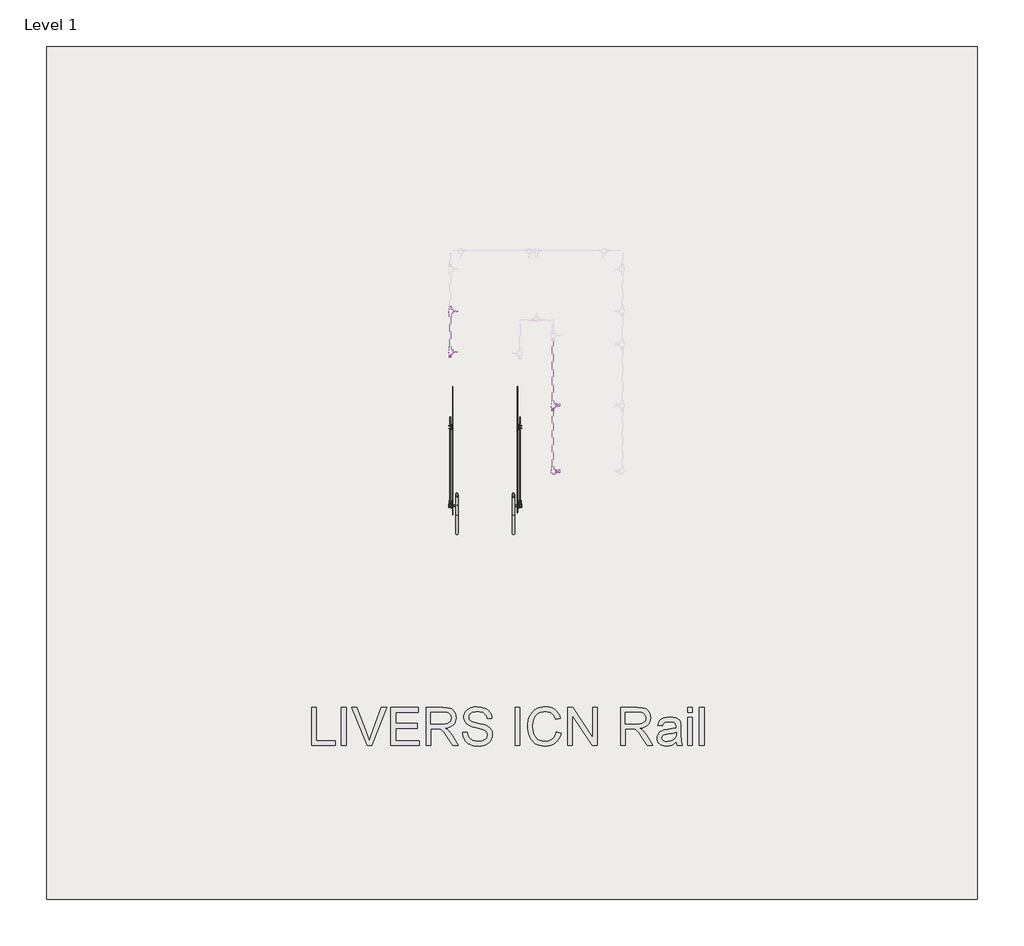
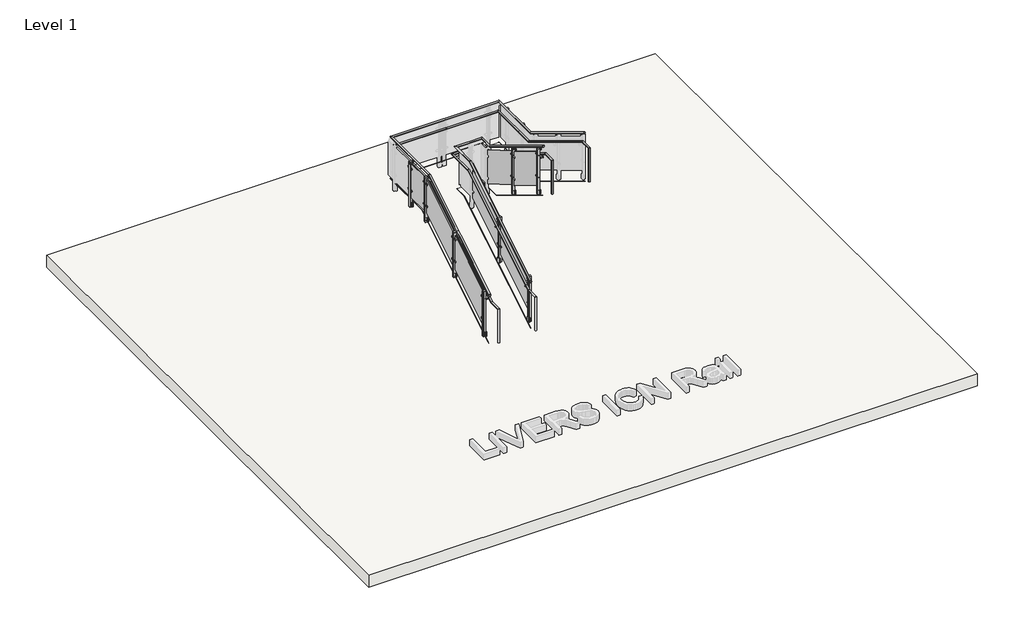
# One storey, part 1 of 2: 7 proxies, 2 railings, 1 slab.
"""IFC4 building model written with IfcOpenShell, lengths in millimetres."""

from ifc_helpers import new_model, si_unit, frame, origin, place, context, project, spatial, polyline, circle_curve, ellipse_curve, outline, extrude, transform, mapped, element, save
from ifc_brep_helpers import plane_surface, cylinder_surface, advanced_brep
from components import building_element_proxy_f8103633, building_element_proxy_05a415d2, building_element_proxy_c05a2053, building_element_proxy_67c162b6, building_element_proxy_19aa9ecd, building_element_proxy_eeb6ef50, building_element_proxy_6e90fe54, building_element_proxy_b375c711

model = new_model("IFC4")

# Units and contexts
model_context = context("Model", 3, world=origin())
ifc_project = project(units=[si_unit("LENGTHUNIT", "METRE", prefix="MILLI")], contexts=[model_context])

# Site, building, storey
site = spatial("IfcSite", under=ifc_project)
building = spatial("IfcBuilding", under=site)
storey = spatial("IfcBuildingStorey", under=building, Name="Level 1", Elevation=0.0)

# Proxies
placement = place(None, origin())
building_element_proxy_shape = building_element_proxy_f8103633(model_context)
element("IfcBuildingElementProxy", 1, Name="LIVERS_ICN - Glass Panel : LIVERS_ICN - Glass Panel", ObjectType="LIVERS_ICN - Glass Panel : LIVERS_ICN - Glass Panel", at=placement, inside=storey, context=model_context, shape_type="MappedRepresentation", body=[
    mapped(building_element_proxy_shape, transform((29702.5380155, -12722.7575069, 608.1073718), x_axis=(0.0, 1.0, 0.0), y_axis=(-1.0, 0.0, 0.0), z_axis=(0.0, 0.0, 1.0))),
])
building_element_proxy_2_shape = building_element_proxy_05a415d2(model_context)
element("IfcBuildingElementProxy", 2, Name="LIVERS_ICN - Glass Panel : LIVERS_ICN - Glass Panel", ObjectType="LIVERS_ICN - Glass Panel : LIVERS_ICN - Glass Panel", at=placement, inside=storey, context=model_context, shape_type="MappedRepresentation", body=[
    mapped(building_element_proxy_2_shape, transform((30718.5380155, -11490.9012132, 615.7778528), x_axis=(0.0, -1.0, 0.0), y_axis=(1.0, 0.0, 0.0), z_axis=(0.0, 0.0, 1.0))),
])
building_element_proxy_3_shape = building_element_proxy_c05a2053(model_context)
element("IfcBuildingElementProxy", 3, Name="LIVERS_ICN - Glass Panel : LIVERS_ICN - Glass Panel", ObjectType="LIVERS_ICN - Glass Panel : LIVERS_ICN - Glass Panel", at=placement, inside=storey, context=model_context, shape_type="MappedRepresentation", body=[
    mapped(building_element_proxy_3_shape, transform((30718.5380155, -10255.1105297, 1364.7419034), x_axis=(0.0, -1.0, 0.0), y_axis=(1.0, 0.0, 0.0), z_axis=(0.0, 0.0, 1.0))),
])
building_element_proxy_4_shape = building_element_proxy_67c162b6(model_context)
element("IfcBuildingElementProxy", 4, Name="LIVERS_ICN - Glass Panel : LIVERS_ICN - Glass Panel", ObjectType="LIVERS_ICN - Glass Panel : LIVERS_ICN - Glass Panel", at=placement, inside=storey, context=model_context, shape_type="MappedRepresentation", body=[
    mapped(building_element_proxy_4_shape, transform((31312.1560196, -11253.3633384, 2031.9094722), x_axis=(0.0, 1.0, 0.0), y_axis=(-1.0, 0.0, 0.0), z_axis=(0.0, 0.0, 1.0))),
])
building_element_proxy_5_shape = building_element_proxy_19aa9ecd(model_context)
element("IfcBuildingElementProxy", 5, Name="LIVERS_ICN - Glass Panel : LIVERS_ICN - Glass Panel", ObjectType="LIVERS_ICN - Glass Panel : LIVERS_ICN - Glass Panel", at=placement, inside=storey, context=model_context, shape_type="MappedRepresentation", body=[
    mapped(building_element_proxy_5_shape, transform((29702.5380155, -11517.0898548, 1338.8150397), x_axis=(0.0, 1.0, 0.0), y_axis=(-1.0, 0.0, 0.0), z_axis=(0.0, 0.0, 1.0))),
])
building_element_proxy_6_shape = building_element_proxy_eeb6ef50(model_context)
building_element_proxy_7_shape = building_element_proxy_6e90fe54(model_context)
element("IfcBuildingElementProxy", 6, Name="LIVERS_ICN - Glass Panel : LIVERS_ICN - Glass Panel", ObjectType="LIVERS_ICN - Glass Panel : LIVERS_ICN - Glass Panel", at=placement, inside=storey, context=model_context, shape_type="MappedRepresentation", body=[
    mapped(building_element_proxy_6_shape, transform((29702.5380155, -10439.0959724, 1680.6127155), x_axis=(0.0, 1.0, 0.0), y_axis=(-1.0, 0.0, 0.0), z_axis=(0.0, 0.0, 1.0))),
    mapped(building_element_proxy_7_shape, transform((29702.5380155, -10439.0959724, 1680.6127155), x_axis=(0.0, 1.0, 0.0), y_axis=(-1.0, 0.0, 0.0), z_axis=(0.0, 0.0, 1.0))),
])
building_element_proxy_8_shape = building_element_proxy_b375c711(model_context)
element("IfcBuildingElementProxy", 7, Name="LIVERS_ICN - Glass Panel : LIVERS_ICN - Glass Panel", ObjectType="LIVERS_ICN - Glass Panel : LIVERS_ICN - Glass Panel", at=placement, inside=storey, context=model_context, shape_type="MappedRepresentation", body=[
    mapped(building_element_proxy_8_shape, transform((31312.1560196, -12179.5288073, 2593.2218776), x_axis=(0.0, 1.0, 0.0), y_axis=(-1.0, 0.0, 0.0), z_axis=(0.0, 0.0, 1.0))),
])

# Railings
element("IfcRailing", 8, ObjectType="LIVERS_ICN", at=placement, inside=storey, context=model_context, shape_type="AdvancedBrep", body=[
    advanced_brep(
    [(29785.0880155, -13143.8736898, 169.3333333), (29746.9880155, -13143.8736898, 169.3333333), (29785.0880155, -13143.8736898, 1013.8833333), (29746.9880155, -13143.8736898, 1013.8833333), (29785.0880155, -12852.8015363, 1013.8833333), (29746.9880155, -12852.8015363, 1013.8833333), (29785.0880155, -10338.2015363, 2537.8833333), (29746.9880155, -10338.2015363, 2537.8833333), (29785.0880155, -8817.0950361, 2537.8833333), (29746.9880155, -8778.9950361, 2537.8833333), (32245.6060196, -8817.0950361, 2537.8833333), (32283.7060196, -8778.9950361, 2537.8833333), (32245.6060196, -10069.4458434, 2537.8833333), (32283.7060196, -10069.4458434, 2537.8833333), (32245.6060196, -12304.6458434, 3892.55), (32283.7060196, -12304.6458434, 3892.55), (32245.6060196, -12585.0736898, 3892.55), (32283.7060196, -12585.0736898, 3892.55), (32245.6060196, -12585.0736898, 3048.0), (32283.7060196, -12585.0736898, 3048.0)],
    [
        (0, 1, circle_curve(frame((29766.0380155, -13143.8736898, 169.3333333), z_axis=(0.0, 0.0, -1.0), x_axis=(-1.0, 0.0, 0.0)), 19.05)),
        (1, 0, circle_curve(frame((29766.0380155, -13143.8736898, 169.3333333), z_axis=(0.0, 0.0, -1.0), x_axis=(-1.0, 0.0, 0.0)), 19.05)),
        (0, 2),
        (2, 3, ellipse_curve(frame((29766.0380155, -13143.8736898, 1013.8833333), z_axis=(0.0, -0.7071067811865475, -0.7071067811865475), x_axis=(0.0, 0.7071067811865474, -0.7071067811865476)), 26.9407684, 19.05)),
        (3, 1),
        (3, 2, ellipse_curve(frame((29766.0380155, -13143.8736898, 1013.8833333), z_axis=(0.0, -0.7071067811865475, -0.7071067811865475), x_axis=(0.0, 0.7071067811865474, -0.7071067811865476)), 26.9407684, 19.05)),
        (2, 4),
        (4, 5, ellipse_curve(frame((29766.0380155, -12852.8015363, 1013.8833333), z_axis=(0.0, -0.9631193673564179, -0.26907449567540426), x_axis=(0.0, -0.26907449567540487, 0.9631193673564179)), 19.7794797, 19.05)),
        (5, 3),
        (5, 4, ellipse_curve(frame((29766.0380155, -12852.8015363, 1013.8833333), z_axis=(0.0, -0.9631193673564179, -0.26907449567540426), x_axis=(0.0, -0.26907449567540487, 0.9631193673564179)), 19.7794797, 19.05)),
        (4, 6),
        (6, 7, ellipse_curve(frame((29766.0380155, -10338.2015363, 2537.8833333), z_axis=(0.0, -0.9631193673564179, -0.2690744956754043), x_axis=(0.0, 0.26907449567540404, -0.9631193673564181)), 19.7794797, 19.05)),
        (7, 5),
        (7, 6, ellipse_curve(frame((29766.0380155, -10338.2015363, 2537.8833333), z_axis=(0.0, -0.9631193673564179, -0.2690744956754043), x_axis=(0.0, 0.26907449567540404, -0.9631193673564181)), 19.7794797, 19.05)),
        (6, 8),
        (8, 9, ellipse_curve(frame((29766.0380155, -8798.0450361, 2537.8833333), z_axis=(-0.7071067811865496, -0.7071067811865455, 0.0), x_axis=(0.7071067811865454, -0.7071067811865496, 0.0)), 26.9407684, 19.05)),
        (9, 7),
        (9, 8, ellipse_curve(frame((29766.0380155, -8798.0450361, 2537.8833333), z_axis=(-0.7071067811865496, -0.7071067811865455, 0.0), x_axis=(0.7071067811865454, -0.7071067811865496, 0.0)), 26.9407684, 19.05)),
        (8, 10),
        (10, 11, ellipse_curve(frame((32264.6560196, -8798.0450361, 2537.8833333), z_axis=(-0.7071067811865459, 0.7071067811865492, 0.0), x_axis=(-0.707106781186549, -0.7071067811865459, 0.0)), 26.9407684, 19.05)),
        (11, 9),
        (11, 10, ellipse_curve(frame((32264.6560196, -8798.0450361, 2537.8833333), z_axis=(-0.7071067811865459, 0.7071067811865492, 0.0), x_axis=(-0.707106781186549, -0.7071067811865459, 0.0)), 26.9407684, 19.05)),
        (10, 12),
        (12, 13, ellipse_curve(frame((32264.6560196, -10069.4458434, 2537.8833333), z_axis=(0.0, 0.963119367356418, -0.26907449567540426), x_axis=(0.0, 0.2690744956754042, 0.9631193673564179)), 19.7794797, 19.05)),
        (13, 11),
        (13, 12, ellipse_curve(frame((32264.6560196, -10069.4458434, 2537.8833333), z_axis=(0.0, 0.963119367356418, -0.26907449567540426), x_axis=(0.0, 0.2690744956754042, 0.9631193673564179)), 19.7794797, 19.05)),
        (12, 14),
        (14, 15, ellipse_curve(frame((32264.6560196, -12304.6458434, 3892.55), z_axis=(0.0, 0.963119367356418, -0.26907449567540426), x_axis=(0.0, -0.26907449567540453, -0.9631193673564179)), 19.7794797, 19.05)),
        (15, 13),
        (15, 14, ellipse_curve(frame((32264.6560196, -12304.6458434, 3892.55), z_axis=(0.0, 0.963119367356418, -0.26907449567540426), x_axis=(0.0, -0.26907449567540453, -0.9631193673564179)), 19.7794797, 19.05)),
        (14, 16),
        (16, 17, ellipse_curve(frame((32264.6560196, -12585.0736898, 3892.55), z_axis=(0.0, 0.7071067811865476, 0.7071067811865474), x_axis=(0.0, 0.7071067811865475, -0.7071067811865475)), 26.9407684, 19.05)),
        (17, 15),
        (17, 16, ellipse_curve(frame((32264.6560196, -12585.0736898, 3892.55), z_axis=(0.0, 0.7071067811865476, 0.7071067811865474), x_axis=(0.0, 0.7071067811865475, -0.7071067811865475)), 26.9407684, 19.05)),
        (18, 19, circle_curve(frame((32264.6560196, -12585.0736898, 3048.0), z_axis=(0.0, 0.0, -1.0), x_axis=(1.0, 0.0, 0.0)), 19.05)),
        (19, 18, circle_curve(frame((32264.6560196, -12585.0736898, 3048.0), z_axis=(0.0, 0.0, -1.0), x_axis=(1.0, 0.0, 0.0)), 19.05)),
        (16, 18),
        (19, 17),
    ],
    [
        plane_surface(frame((29766.0380155, -13201.0236898, 169.3333333), z_axis=(0.0, 0.0, -1.0), x_axis=(1.0, 0.0, 0.0))),
        cylinder_surface(frame((29766.0380155, -13143.8736898, 169.3333333), z_axis=(0.0, 0.0, -1.0), x_axis=(-1.0, 0.0, 0.0)), 19.05),
        cylinder_surface(frame((29766.0380155, -13162.9236898, 1013.8833333), z_axis=(0.0, -1.0, 0.0), x_axis=(-1.0, 0.0, 0.0)), 19.05),
        cylinder_surface(frame((29766.0380155, -12848.2500421, 1016.6418146), z_axis=(0.0, -0.8551978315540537, -0.5183017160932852), x_axis=(-1.0, 0.0, 0.0)), 19.05),
        cylinder_surface(frame((29766.0380155, -10343.5236898, 2537.8833333), z_axis=(0.0, -1.0, 0.0), x_axis=(-1.0, 0.0, 0.0)), 19.05),
        cylinder_surface(frame((29766.0380155, -8798.0450361, 2537.8833333), z_axis=(-1.0, 0.0, 0.0), x_axis=(0.0, 1.0, 0.0)), 19.05),
        cylinder_surface(frame((32264.6560196, -8798.0450361, 2537.8833333), z_axis=(0.0, 1.0, 0.0), x_axis=(1.0, 0.0, 0.0)), 19.05),
        cylinder_surface(frame((32264.6560196, -10073.9973375, 2540.6418146), z_axis=(0.0, 0.8551978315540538, -0.5183017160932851), x_axis=(1.0, 0.0, 0.0)), 19.05),
        cylinder_surface(frame((32264.6560196, -12299.3236898, 3892.55), z_axis=(0.0, 1.0, 0.0), x_axis=(1.0, 0.0, 0.0)), 19.05),
        plane_surface(frame((32264.6560196, -12642.2236898, 3048.0), z_axis=(0.0, 0.0, -1.0), x_axis=(-1.0, 0.0, 0.0))),
        cylinder_surface(frame((32264.6560196, -12585.0736898, 3911.6), z_axis=(0.0, 0.0, 1.0), x_axis=(1.0, 0.0, 0.0)), 19.05),
    ],
    [
        (0, [[1, 2]]),
        (1, [[-1, 3, 4, 5]]),
        (1, [[-2, -5, 6, -3]]),
        (2, [[-4, 7, 8, 9]]),
        (2, [[-6, -9, 10, -7]]),
        (3, [[-8, 11, 12, 13]]),
        (3, [[-10, -13, 14, -11]]),
        (4, [[-12, 15, 16, 17]]),
        (4, [[-14, -17, 18, -15]]),
        (5, [[-16, 19, 20, 21]]),
        (5, [[-18, -21, 22, -19]]),
        (6, [[-20, 23, 24, 25]]),
        (6, [[-22, -25, 26, -23]]),
        (7, [[-24, 27, 28, 29]]),
        (7, [[-26, -29, 30, -27]]),
        (8, [[-28, 31, 32, 33]]),
        (8, [[-30, -33, 34, -31]]),
        (9, [[35, 36]]),
        (10, [[-32, 37, -36, 38]]),
        (10, [[-34, -38, -35, -37]]),
    ],
),
    advanced_brep(
    [(29703.7663605, -12858.1236898, -22.5851124), (29701.3096705, -12858.1236898, -22.5851124), (29703.7663605, -10045.8205046, 1681.8410605), (29701.3096705, -10045.8205046, 1681.8410605), (29703.7663605, -8735.773381, 1681.8410605), (29701.3096705, -8733.3166911, 1681.8410605), (32326.9276746, -8735.773381, 1681.8410605), (32329.3843646, -8733.3166911, 1681.8410605), (32326.9276746, -10361.8268751, 1681.8410605), (32329.3843646, -10361.8268751, 1681.8410605), (32326.9276746, -12299.3236898, 2856.0815543), (32329.3843646, -12299.3236898, 2856.0815543)],
    [
        (0, 1, ellipse_curve(frame((29702.5380155, -12858.1236898, -22.5851124), z_axis=(0.0, -1.0, 0.0), x_axis=(0.0, 0.0, -1.0)), 1.4363285, 1.228345)),
        (1, 0, ellipse_curve(frame((29702.5380155, -12858.1236898, -22.5851124), z_axis=(0.0, -1.0, 0.0), x_axis=(0.0, 0.0, -1.0)), 1.4363285, 1.228345)),
        (0, 2),
        (2, 3, ellipse_curve(frame((29702.5380155, -10045.8205046, 1681.8410605), z_axis=(0.0, -0.963119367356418, -0.2690744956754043), x_axis=(0.0, 0.26907449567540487, -0.9631193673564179)), 1.2753819, 1.228345)),
        (3, 1),
        (3, 2, ellipse_curve(frame((29702.5380155, -10045.8205046, 1681.8410605), z_axis=(0.0, -0.963119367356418, -0.2690744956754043), x_axis=(0.0, 0.26907449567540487, -0.9631193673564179)), 1.2753819, 1.228345)),
        (2, 4),
        (4, 5, ellipse_curve(frame((29702.5380155, -8734.5450361, 1681.8410605), z_axis=(-0.7071067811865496, -0.7071067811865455, 0.0), x_axis=(0.7071067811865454, -0.7071067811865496, 0.0)), 1.7371421, 1.228345)),
        (5, 3),
        (5, 4, ellipse_curve(frame((29702.5380155, -8734.5450361, 1681.8410605), z_axis=(-0.7071067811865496, -0.7071067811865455, 0.0), x_axis=(0.7071067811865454, -0.7071067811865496, 0.0)), 1.7371421, 1.228345)),
        (4, 6),
        (6, 7, ellipse_curve(frame((32328.1560196, -8734.5450361, 1681.8410605), z_axis=(-0.7071067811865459, 0.7071067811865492, 0.0), x_axis=(-0.707106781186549, -0.7071067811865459, 0.0)), 1.7371421, 1.228345)),
        (7, 5),
        (7, 6, ellipse_curve(frame((32328.1560196, -8734.5450361, 1681.8410605), z_axis=(-0.7071067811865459, 0.7071067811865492, 0.0), x_axis=(-0.707106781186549, -0.7071067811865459, 0.0)), 1.7371421, 1.228345)),
        (6, 8),
        (8, 9, ellipse_curve(frame((32328.1560196, -10361.8268751, 1681.8410605), z_axis=(0.0, 0.963119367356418, -0.26907449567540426), x_axis=(0.0, 0.2690744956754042, 0.963119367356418)), 1.2753819, 1.228345)),
        (9, 7),
        (9, 8, ellipse_curve(frame((32328.1560196, -10361.8268751, 1681.8410605), z_axis=(0.0, 0.963119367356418, -0.26907449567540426), x_axis=(0.0, 0.2690744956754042, 0.963119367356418)), 1.2753819, 1.228345)),
        (10, 11, ellipse_curve(frame((32328.1560196, -12299.3236898, 2856.0815543), z_axis=(0.0, -1.0, 0.0), x_axis=(0.0, 0.0, -1.0)), 1.4363285, 1.228345)),
        (11, 10, ellipse_curve(frame((32328.1560196, -12299.3236898, 2856.0815543), z_axis=(0.0, -1.0, 0.0), x_axis=(0.0, 0.0, -1.0)), 1.4363285, 1.228345)),
        (8, 10),
        (11, 9),
    ],
    [
        plane_surface(frame((29702.5380155, -12858.1236898, 1223.4333333), z_axis=(0.0, -1.0, 0.0), x_axis=(0.0, 0.0, 1.0))),
        cylinder_surface(frame((29702.5380155, -12305.8253861, 312.1411323), z_axis=(0.0, -0.8551978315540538, -0.5183017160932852), x_axis=(-1.0, 0.0, 0.0)), 1.228345),
        cylinder_surface(frame((29702.5380155, -10343.5236898, 1681.8410605), z_axis=(0.0, -1.0, 0.0), x_axis=(-1.0, 0.0, 0.0)), 1.228345),
        cylinder_surface(frame((29702.5380155, -8734.5450361, 1681.8410605), z_axis=(-1.0, 0.0, 0.0), x_axis=(0.0, 1.0, 0.0)), 1.228345),
        cylinder_surface(frame((32328.1560196, -8734.5450361, 1681.8410605), z_axis=(0.0, 1.0, 0.0), x_axis=(1.0, 0.0, 0.0)), 1.228345),
        plane_surface(frame((32328.1560196, -12299.3236898, 4102.1), z_axis=(0.0, -1.0, 0.0), x_axis=(0.0, 0.0, -1.0))),
        cylinder_surface(frame((32328.1560196, -10616.4219935, 1836.1411323), z_axis=(0.0, 0.8551978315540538, -0.5183017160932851), x_axis=(1.0, 0.0, 0.0)), 1.228345),
    ],
    [
        (0, [[1, 2]]),
        (1, [[-1, 3, 4, 5]]),
        (1, [[-2, -5, 6, -3]]),
        (2, [[-4, 7, 8, 9]]),
        (2, [[-6, -9, 10, -7]]),
        (3, [[-8, 11, 12, 13]]),
        (3, [[-10, -13, 14, -11]]),
        (4, [[-12, 15, 16, 17]]),
        (4, [[-14, -17, 18, -15]]),
        (5, [[19, 20]]),
        (6, [[-16, 21, -20, 22]]),
        (6, [[-18, -22, -19, -21]]),
    ],
),
    advanced_brep(
    [(29740.6380155, -12858.1236898, 1213.8577857), (29702.5380155, -12858.1236898, 1213.8577857), (29740.6380155, -10338.2015363, 2741.0833333), (29702.5380155, -10338.2015363, 2741.0833333), (29740.6380155, -8772.6450361, 2741.0833333), (29702.5380155, -8734.5450361, 2741.0833333), (32290.0560196, -8772.6450361, 2741.0833333), (32328.1560196, -8734.5450361, 2741.0833333), (32290.0560196, -10069.4458434, 2741.0833333), (32328.1560196, -10069.4458434, 2741.0833333), (32290.0560196, -12299.3236898, 4092.5244524), (32328.1560196, -12299.3236898, 4092.5244524)],
    [
        (0, 1, ellipse_curve(frame((29721.5880155, -12858.1236898, 1213.8577857), z_axis=(0.0, -1.0, 0.0), x_axis=(0.0, 0.0, -1.0)), 22.2755476, 19.05)),
        (1, 0, ellipse_curve(frame((29721.5880155, -12858.1236898, 1213.8577857), z_axis=(0.0, -1.0, 0.0), x_axis=(0.0, 0.0, -1.0)), 22.2755476, 19.05)),
        (0, 2),
        (2, 3, ellipse_curve(frame((29721.5880155, -10338.2015363, 2741.0833333), z_axis=(0.0, -0.963119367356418, -0.2690744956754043), x_axis=(0.0, 0.26907449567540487, -0.9631193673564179)), 19.7794797, 19.05)),
        (3, 1),
        (3, 2, ellipse_curve(frame((29721.5880155, -10338.2015363, 2741.0833333), z_axis=(0.0, -0.963119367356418, -0.2690744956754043), x_axis=(0.0, 0.26907449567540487, -0.9631193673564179)), 19.7794797, 19.05)),
        (2, 4),
        (4, 5, ellipse_curve(frame((29721.5880155, -8753.5950361, 2741.0833333), z_axis=(-0.7071067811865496, -0.7071067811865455, 0.0), x_axis=(0.7071067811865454, -0.7071067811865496, 0.0)), 26.9407684, 19.05)),
        (5, 3),
        (5, 4, ellipse_curve(frame((29721.5880155, -8753.5950361, 2741.0833333), z_axis=(-0.7071067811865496, -0.7071067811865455, 0.0), x_axis=(0.7071067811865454, -0.7071067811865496, 0.0)), 26.9407684, 19.05)),
        (4, 6),
        (6, 7, ellipse_curve(frame((32309.1060196, -8753.5950361, 2741.0833333), z_axis=(-0.7071067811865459, 0.7071067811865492, 0.0), x_axis=(-0.707106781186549, -0.7071067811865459, 0.0)), 26.9407684, 19.05)),
        (7, 5),
        (7, 6, ellipse_curve(frame((32309.1060196, -8753.5950361, 2741.0833333), z_axis=(-0.7071067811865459, 0.7071067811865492, 0.0), x_axis=(-0.707106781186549, -0.7071067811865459, 0.0)), 26.9407684, 19.05)),
        (6, 8),
        (8, 9, ellipse_curve(frame((32309.1060196, -10069.4458434, 2741.0833333), z_axis=(0.0, 0.963119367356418, -0.26907449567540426), x_axis=(0.0, 0.2690744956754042, 0.963119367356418)), 19.7794797, 19.05)),
        (9, 7),
        (9, 8, ellipse_curve(frame((32309.1060196, -10069.4458434, 2741.0833333), z_axis=(0.0, 0.963119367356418, -0.26907449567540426), x_axis=(0.0, 0.2690744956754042, 0.963119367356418)), 19.7794797, 19.05)),
        (10, 11, ellipse_curve(frame((32309.1060196, -12299.3236898, 4092.5244524), z_axis=(0.0, -1.0, 0.0), x_axis=(0.0, 0.0, -1.0)), 22.2755476, 19.05)),
        (11, 10, ellipse_curve(frame((32309.1060196, -12299.3236898, 4092.5244524), z_axis=(0.0, -1.0, 0.0), x_axis=(0.0, 0.0, -1.0)), 22.2755476, 19.05)),
        (8, 10),
        (11, 9),
    ],
    [
        plane_surface(frame((29721.5880155, -12858.1236898, 1236.1333333), z_axis=(0.0, -1.0, 0.0), x_axis=(0.0, 0.0, 1.0))),
        cylinder_surface(frame((29721.5880155, -12848.2500421, 1219.8418146), z_axis=(0.0, -0.8551978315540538, -0.5183017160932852), x_axis=(-1.0, 0.0, 0.0)), 19.05),
        cylinder_surface(frame((29721.5880155, -10343.5236898, 2741.0833333), z_axis=(0.0, -1.0, 0.0), x_axis=(-1.0, 0.0, 0.0)), 19.05),
        cylinder_surface(frame((29721.5880155, -8753.5950361, 2741.0833333), z_axis=(-1.0, 0.0, 0.0), x_axis=(0.0, 1.0, 0.0)), 19.05),
        cylinder_surface(frame((32309.1060196, -8753.5950361, 2741.0833333), z_axis=(0.0, 1.0, 0.0), x_axis=(1.0, 0.0, 0.0)), 19.05),
        plane_surface(frame((32309.1060196, -12299.3236898, 4114.8), z_axis=(0.0, -1.0, 0.0), x_axis=(0.0, 0.0, -1.0))),
        cylinder_surface(frame((32309.1060196, -10073.9973375, 2743.8418146), z_axis=(0.0, 0.8551978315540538, -0.5183017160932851), x_axis=(1.0, 0.0, 0.0)), 19.05),
    ],
    [
        (0, [[1, 2]]),
        (1, [[-1, 3, 4, 5]]),
        (1, [[-2, -5, 6, -3]]),
        (2, [[-4, 7, 8, 9]]),
        (2, [[-6, -9, 10, -7]]),
        (3, [[-8, 11, 12, 13]]),
        (3, [[-10, -13, 14, -11]]),
        (4, [[-12, 15, 16, 17]]),
        (4, [[-14, -17, 18, -15]]),
        (5, [[19, 20]]),
        (6, [[-16, 21, -20, 22]]),
        (6, [[-18, -22, -19, -21]]),
    ],
),
])
element("IfcRailing", 9, ObjectType="LIVERS_ICN", at=placement, inside=storey, context=model_context, shape_type="AdvancedBrep", body=[
    advanced_brep(
    [(30674.0880155, -13143.8736898, 169.3333333), (30635.9880155, -13143.8736898, 169.3333333), (30674.0880155, -13143.8736898, 1013.8833333), (30635.9880155, -13143.8736898, 1013.8833333), (30674.0880155, -12852.8015363, 1013.8833333), (30635.9880155, -12852.8015363, 1013.8833333), (30674.0880155, -10338.2015363, 2537.8833333), (30635.9880155, -10338.2015363, 2537.8833333), (30674.0880155, -9706.0950361, 2537.8833333), (30635.9880155, -9667.9950361, 2537.8833333), (31356.6060196, -9706.0950361, 2537.8833333), (31394.7060196, -9667.9950361, 2537.8833333), (31356.6060196, -10069.4458434, 2537.8833333), (31394.7060196, -10069.4458434, 2537.8833333), (31356.6060196, -12304.6458434, 3892.55), (31394.7060196, -12304.6458434, 3892.55), (31356.6060196, -12585.0736898, 3892.55), (31394.7060196, -12585.0736898, 3892.55), (31356.6060196, -12585.0736898, 3048.0), (31394.7060196, -12585.0736898, 3048.0)],
    [
        (0, 1, circle_curve(frame((30655.0380155, -13143.8736898, 169.3333333), z_axis=(0.0, 0.0, -1.0), x_axis=(-1.0, 0.0, 0.0)), 19.05)),
        (1, 0, circle_curve(frame((30655.0380155, -13143.8736898, 169.3333333), z_axis=(0.0, 0.0, -1.0), x_axis=(-1.0, 0.0, 0.0)), 19.05)),
        (0, 2),
        (2, 3, ellipse_curve(frame((30655.0380155, -13143.8736898, 1013.8833333), z_axis=(0.0, -0.7071067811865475, -0.7071067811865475), x_axis=(0.0, 0.7071067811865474, -0.7071067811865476)), 26.9407684, 19.05)),
        (3, 1),
        (3, 2, ellipse_curve(frame((30655.0380155, -13143.8736898, 1013.8833333), z_axis=(0.0, -0.7071067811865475, -0.7071067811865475), x_axis=(0.0, 0.7071067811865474, -0.7071067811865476)), 26.9407684, 19.05)),
        (2, 4),
        (4, 5, ellipse_curve(frame((30655.0380155, -12852.8015363, 1013.8833333), z_axis=(0.0, -0.9631193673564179, -0.2690744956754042), x_axis=(0.0, -0.26907449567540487, 0.9631193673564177)), 19.7794797, 19.05)),
        (5, 3),
        (5, 4, ellipse_curve(frame((30655.0380155, -12852.8015363, 1013.8833333), z_axis=(0.0, -0.9631193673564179, -0.2690744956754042), x_axis=(0.0, -0.26907449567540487, 0.9631193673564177)), 19.7794797, 19.05)),
        (4, 6),
        (6, 7, ellipse_curve(frame((30655.0380155, -10338.2015363, 2537.8833333), z_axis=(0.0, -0.9631193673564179, -0.2690744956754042), x_axis=(0.0, 0.26907449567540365, -0.9631193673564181)), 19.7794797, 19.05)),
        (7, 5),
        (7, 6, ellipse_curve(frame((30655.0380155, -10338.2015363, 2537.8833333), z_axis=(0.0, -0.9631193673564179, -0.2690744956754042), x_axis=(0.0, 0.26907449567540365, -0.9631193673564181)), 19.7794797, 19.05)),
        (6, 8),
        (8, 9, ellipse_curve(frame((30655.0380155, -9687.0450361, 2537.8833333), z_axis=(-0.7071067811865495, -0.7071067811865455, 0.0), x_axis=(0.7071067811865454, -0.7071067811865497, 0.0)), 26.9407684, 19.05)),
        (9, 7),
        (9, 8, ellipse_curve(frame((30655.0380155, -9687.0450361, 2537.8833333), z_axis=(-0.7071067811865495, -0.7071067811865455, 0.0), x_axis=(0.7071067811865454, -0.7071067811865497, 0.0)), 26.9407684, 19.05)),
        (8, 10),
        (10, 11, ellipse_curve(frame((31375.6560196, -9687.0450361, 2537.8833333), z_axis=(-0.7071067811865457, 0.7071067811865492, 0.0), x_axis=(-0.7071067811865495, -0.7071067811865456, 0.0)), 26.9407684, 19.05)),
        (11, 9),
        (11, 10, ellipse_curve(frame((31375.6560196, -9687.0450361, 2537.8833333), z_axis=(-0.7071067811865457, 0.7071067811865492, 0.0), x_axis=(-0.7071067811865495, -0.7071067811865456, 0.0)), 26.9407684, 19.05)),
        (10, 12),
        (12, 13, ellipse_curve(frame((31375.6560196, -10069.4458434, 2537.8833333), z_axis=(0.0, 0.963119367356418, -0.2690744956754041), x_axis=(0.0, 0.26907449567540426, 0.9631193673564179)), 19.7794797, 19.05)),
        (13, 11),
        (13, 12, ellipse_curve(frame((31375.6560196, -10069.4458434, 2537.8833333), z_axis=(0.0, 0.963119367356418, -0.2690744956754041), x_axis=(0.0, 0.26907449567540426, 0.9631193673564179)), 19.7794797, 19.05)),
        (12, 14),
        (14, 15, ellipse_curve(frame((31375.6560196, -12304.6458434, 3892.55), z_axis=(0.0, 0.963119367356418, -0.2690744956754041), x_axis=(0.0, -0.2690744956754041, -0.9631193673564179)), 19.7794797, 19.05)),
        (15, 13),
        (15, 14, ellipse_curve(frame((31375.6560196, -12304.6458434, 3892.55), z_axis=(0.0, 0.963119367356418, -0.2690744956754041), x_axis=(0.0, -0.2690744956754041, -0.9631193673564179)), 19.7794797, 19.05)),
        (14, 16),
        (16, 17, ellipse_curve(frame((31375.6560196, -12585.0736898, 3892.55), z_axis=(0.0, 0.7071067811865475, 0.7071067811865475), x_axis=(0.0, 0.7071067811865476, -0.7071067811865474)), 26.9407684, 19.05)),
        (17, 15),
        (17, 16, ellipse_curve(frame((31375.6560196, -12585.0736898, 3892.55), z_axis=(0.0, 0.7071067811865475, 0.7071067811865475), x_axis=(0.0, 0.7071067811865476, -0.7071067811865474)), 26.9407684, 19.05)),
        (18, 19, circle_curve(frame((31375.6560196, -12585.0736898, 3048.0), z_axis=(0.0, 0.0, -1.0), x_axis=(1.0, 0.0, 0.0)), 19.05)),
        (19, 18, circle_curve(frame((31375.6560196, -12585.0736898, 3048.0), z_axis=(0.0, 0.0, -1.0), x_axis=(1.0, 0.0, 0.0)), 19.05)),
        (16, 18),
        (19, 17),
    ],
    [
        plane_surface(frame((30655.0380155, -13201.0236898, 169.3333333), z_axis=(0.0, 0.0, -1.0), x_axis=(1.0, 0.0, 0.0))),
        cylinder_surface(frame((30655.0380155, -13143.8736898, 169.3333333), z_axis=(0.0, 0.0, -1.0), x_axis=(-1.0, 0.0, 0.0)), 19.05),
        cylinder_surface(frame((30655.0380155, -13162.9236898, 1013.8833333), z_axis=(0.0, -1.0, 0.0), x_axis=(-1.0, 0.0, 0.0)), 19.05),
        cylinder_surface(frame((30655.0380155, -12848.2500421, 1016.6418146), z_axis=(0.0, -0.8551978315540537, -0.5183017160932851), x_axis=(-1.0, 0.0, 0.0)), 19.05),
        cylinder_surface(frame((30655.0380155, -10343.5236898, 2537.8833333), z_axis=(0.0, -1.0, 0.0), x_axis=(-1.0, 0.0, 0.0)), 19.05),
        cylinder_surface(frame((30655.0380155, -9687.0450361, 2537.8833333), z_axis=(-1.0, 0.0, 0.0), x_axis=(0.0, 1.0, 0.0)), 19.05),
        cylinder_surface(frame((31375.6560196, -9687.0450361, 2537.8833333), z_axis=(0.0, 1.0, 0.0), x_axis=(1.0, 0.0, 0.0)), 19.05),
        cylinder_surface(frame((31375.6560196, -10073.9973375, 2540.6418146), z_axis=(0.0, 0.8551978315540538, -0.5183017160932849), x_axis=(1.0, 0.0, 0.0)), 19.05),
        cylinder_surface(frame((31375.6560196, -12299.3236898, 3892.55), z_axis=(0.0, 1.0, 0.0), x_axis=(1.0, 0.0, 0.0)), 19.05),
        plane_surface(frame((31375.6560196, -12642.2236898, 3048.0), z_axis=(0.0, 0.0, -1.0), x_axis=(-1.0, 0.0, 0.0))),
        cylinder_surface(frame((31375.6560196, -12585.0736898, 3911.6), z_axis=(0.0, 0.0, 1.0), x_axis=(1.0, 0.0, 0.0)), 19.05),
    ],
    [
        (0, [[1, 2]]),
        (1, [[-1, 3, 4, 5]]),
        (1, [[-2, -5, 6, -3]]),
        (2, [[-4, 7, 8, 9]]),
        (2, [[-6, -9, 10, -7]]),
        (3, [[-8, 11, 12, 13]]),
        (3, [[-10, -13, 14, -11]]),
        (4, [[-12, 15, 16, 17]]),
        (4, [[-14, -17, 18, -15]]),
        (5, [[-16, 19, 20, 21]]),
        (5, [[-18, -21, 22, -19]]),
        (6, [[-20, 23, 24, 25]]),
        (6, [[-22, -25, 26, -23]]),
        (7, [[-24, 27, 28, 29]]),
        (7, [[-26, -29, 30, -27]]),
        (8, [[-28, 31, 32, 33]]),
        (8, [[-30, -33, 34, -31]]),
        (9, [[35, 36]]),
        (10, [[-32, 37, -36, 38]]),
        (10, [[-34, -38, -35, -37]]),
    ],
),
    advanced_brep(
    [(30719.7663605, -12858.1236898, -22.5851124), (30717.3096705, -12858.1236898, -22.5851124), (30719.7663605, -10045.8205046, 1681.8410605), (30717.3096705, -10045.8205046, 1681.8410605), (30719.7663605, -9751.773381, 1681.8410605), (30717.3096705, -9749.3166911, 1681.8410605), (31310.9276746, -9751.773381, 1681.8410605), (31313.3843646, -9749.3166911, 1681.8410605), (31310.9276746, -10361.8268751, 1681.8410605), (31313.3843646, -10361.8268751, 1681.8410605), (31310.9276746, -12299.3236898, 2856.0815543), (31313.3843646, -12299.3236898, 2856.0815543)],
    [
        (0, 1, ellipse_curve(frame((30718.5380155, -12858.1236898, -22.5851124), z_axis=(0.0, -1.0, 0.0), x_axis=(0.0, 0.0, -1.0)), 1.4363285, 1.228345)),
        (1, 0, ellipse_curve(frame((30718.5380155, -12858.1236898, -22.5851124), z_axis=(0.0, -1.0, 0.0), x_axis=(0.0, 0.0, -1.0)), 1.4363285, 1.228345)),
        (0, 2),
        (2, 3, ellipse_curve(frame((30718.5380155, -10045.8205046, 1681.8410605), z_axis=(0.0, -0.9631193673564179, -0.2690744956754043), x_axis=(0.0, 0.26907449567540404, -0.9631193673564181)), 1.2753819, 1.228345)),
        (3, 1),
        (3, 2, ellipse_curve(frame((30718.5380155, -10045.8205046, 1681.8410605), z_axis=(0.0, -0.9631193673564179, -0.2690744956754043), x_axis=(0.0, 0.26907449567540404, -0.9631193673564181)), 1.2753819, 1.228345)),
        (2, 4),
        (4, 5, ellipse_curve(frame((30718.5380155, -9750.5450361, 1681.8410605), z_axis=(-0.7071067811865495, -0.7071067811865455, 0.0), x_axis=(0.7071067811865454, -0.7071067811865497, 0.0)), 1.7371421, 1.228345)),
        (5, 3),
        (5, 4, ellipse_curve(frame((30718.5380155, -9750.5450361, 1681.8410605), z_axis=(-0.7071067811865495, -0.7071067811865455, 0.0), x_axis=(0.7071067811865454, -0.7071067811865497, 0.0)), 1.7371421, 1.228345)),
        (4, 6),
        (6, 7, ellipse_curve(frame((31312.1560196, -9750.5450361, 1681.8410605), z_axis=(-0.7071067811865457, 0.7071067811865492, 0.0), x_axis=(-0.7071067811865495, -0.7071067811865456, 0.0)), 1.7371421, 1.228345)),
        (7, 5),
        (7, 6, ellipse_curve(frame((31312.1560196, -9750.5450361, 1681.8410605), z_axis=(-0.7071067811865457, 0.7071067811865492, 0.0), x_axis=(-0.7071067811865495, -0.7071067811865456, 0.0)), 1.7371421, 1.228345)),
        (6, 8),
        (8, 9, ellipse_curve(frame((31312.1560196, -10361.8268751, 1681.8410605), z_axis=(0.0, 0.963119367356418, -0.26907449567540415), x_axis=(0.0, 0.2690744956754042, 0.9631193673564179)), 1.2753819, 1.228345)),
        (9, 7),
        (9, 8, ellipse_curve(frame((31312.1560196, -10361.8268751, 1681.8410605), z_axis=(0.0, 0.963119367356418, -0.26907449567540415), x_axis=(0.0, 0.2690744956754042, 0.9631193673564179)), 1.2753819, 1.228345)),
        (10, 11, ellipse_curve(frame((31312.1560196, -12299.3236898, 2856.0815543), z_axis=(0.0, -1.0, 0.0), x_axis=(0.0, 0.0, -1.0)), 1.4363285, 1.228345)),
        (11, 10, ellipse_curve(frame((31312.1560196, -12299.3236898, 2856.0815543), z_axis=(0.0, -1.0, 0.0), x_axis=(0.0, 0.0, -1.0)), 1.4363285, 1.228345)),
        (8, 10),
        (11, 9),
    ],
    [
        plane_surface(frame((30718.5380155, -12858.1236898, 1223.4333333), z_axis=(0.0, -1.0, 0.0), x_axis=(0.0, 0.0, 1.0))),
        cylinder_surface(frame((30718.5380155, -12305.8253861, 312.1411323), z_axis=(0.0, -0.8551978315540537, -0.5183017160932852), x_axis=(-1.0, 0.0, 0.0)), 1.228345),
        cylinder_surface(frame((30718.5380155, -10343.5236898, 1681.8410605), z_axis=(0.0, -1.0, 0.0), x_axis=(-1.0, 0.0, 0.0)), 1.228345),
        cylinder_surface(frame((30718.5380155, -9750.5450361, 1681.8410605), z_axis=(-1.0, 0.0, 0.0), x_axis=(0.0, 1.0, 0.0)), 1.228345),
        cylinder_surface(frame((31312.1560196, -9750.5450361, 1681.8410605), z_axis=(0.0, 1.0, 0.0), x_axis=(1.0, 0.0, 0.0)), 1.228345),
        plane_surface(frame((31312.1560196, -12299.3236898, 4102.1), z_axis=(0.0, -1.0, 0.0), x_axis=(0.0, 0.0, -1.0))),
        cylinder_surface(frame((31312.1560196, -10616.4219935, 1836.1411323), z_axis=(0.0, 0.8551978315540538, -0.5183017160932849), x_axis=(1.0, 0.0, 0.0)), 1.228345),
    ],
    [
        (0, [[1, 2]]),
        (1, [[-1, 3, 4, 5]]),
        (1, [[-2, -5, 6, -3]]),
        (2, [[-4, 7, 8, 9]]),
        (2, [[-6, -9, 10, -7]]),
        (3, [[-8, 11, 12, 13]]),
        (3, [[-10, -13, 14, -11]]),
        (4, [[-12, 15, 16, 17]]),
        (4, [[-14, -17, 18, -15]]),
        (5, [[19, 20]]),
        (6, [[-16, 21, -20, 22]]),
        (6, [[-18, -22, -19, -21]]),
    ],
),
    advanced_brep(
    [(30718.5380155, -12858.1236898, 1213.8577857), (30680.4380155, -12858.1236898, 1213.8577857), (30718.5380155, -10338.2015363, 2741.0833333), (30680.4380155, -10338.2015363, 2741.0833333), (30718.5380155, -9750.5450361, 2741.0833333), (30680.4380155, -9712.4450361, 2741.0833333), (31312.1560196, -9750.5450361, 2741.0833333), (31350.2560196, -9712.4450361, 2741.0833333), (31312.1560196, -10069.4458434, 2741.0833333), (31350.2560196, -10069.4458434, 2741.0833333), (31312.1560196, -12299.3236898, 4092.5244524), (31350.2560196, -12299.3236898, 4092.5244524)],
    [
        (0, 1, ellipse_curve(frame((30699.4880155, -12858.1236898, 1213.8577857), z_axis=(0.0, -1.0, 0.0), x_axis=(0.0, 0.0, -1.0)), 22.2755476, 19.05)),
        (1, 0, ellipse_curve(frame((30699.4880155, -12858.1236898, 1213.8577857), z_axis=(0.0, -1.0, 0.0), x_axis=(0.0, 0.0, -1.0)), 22.2755476, 19.05)),
        (0, 2),
        (2, 3, ellipse_curve(frame((30699.4880155, -10338.2015363, 2741.0833333), z_axis=(0.0, -0.9631193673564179, -0.26907449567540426), x_axis=(0.0, 0.2690744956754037, -0.9631193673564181)), 19.7794797, 19.05)),
        (3, 1),
        (3, 2, ellipse_curve(frame((30699.4880155, -10338.2015363, 2741.0833333), z_axis=(0.0, -0.9631193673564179, -0.26907449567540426), x_axis=(0.0, 0.2690744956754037, -0.9631193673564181)), 19.7794797, 19.05)),
        (2, 4),
        (4, 5, ellipse_curve(frame((30699.4880155, -9731.4950361, 2741.0833333), z_axis=(-0.7071067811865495, -0.7071067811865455, 0.0), x_axis=(0.7071067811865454, -0.7071067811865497, 0.0)), 26.9407684, 19.05)),
        (5, 3),
        (5, 4, ellipse_curve(frame((30699.4880155, -9731.4950361, 2741.0833333), z_axis=(-0.7071067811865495, -0.7071067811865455, 0.0), x_axis=(0.7071067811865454, -0.7071067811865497, 0.0)), 26.9407684, 19.05)),
        (4, 6),
        (6, 7, ellipse_curve(frame((31331.2060196, -9731.4950361, 2741.0833333), z_axis=(-0.7071067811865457, 0.7071067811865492, 0.0), x_axis=(-0.7071067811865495, -0.7071067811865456, 0.0)), 26.9407684, 19.05)),
        (7, 5),
        (7, 6, ellipse_curve(frame((31331.2060196, -9731.4950361, 2741.0833333), z_axis=(-0.7071067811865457, 0.7071067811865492, 0.0), x_axis=(-0.7071067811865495, -0.7071067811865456, 0.0)), 26.9407684, 19.05)),
        (6, 8),
        (8, 9, ellipse_curve(frame((31331.2060196, -10069.4458434, 2741.0833333), z_axis=(0.0, 0.963119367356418, -0.26907449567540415), x_axis=(0.0, 0.2690744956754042, 0.9631193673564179)), 19.7794797, 19.05)),
        (9, 7),
        (9, 8, ellipse_curve(frame((31331.2060196, -10069.4458434, 2741.0833333), z_axis=(0.0, 0.963119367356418, -0.26907449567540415), x_axis=(0.0, 0.2690744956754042, 0.9631193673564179)), 19.7794797, 19.05)),
        (10, 11, ellipse_curve(frame((31331.2060196, -12299.3236898, 4092.5244524), z_axis=(0.0, -1.0, 0.0), x_axis=(0.0, 0.0, -1.0)), 22.2755476, 19.05)),
        (11, 10, ellipse_curve(frame((31331.2060196, -12299.3236898, 4092.5244524), z_axis=(0.0, -1.0, 0.0), x_axis=(0.0, 0.0, -1.0)), 22.2755476, 19.05)),
        (8, 10),
        (11, 9),
    ],
    [
        plane_surface(frame((30699.4880155, -12858.1236898, 1236.1333333), z_axis=(0.0, -1.0, 0.0), x_axis=(0.0, 0.0, 1.0))),
        cylinder_surface(frame((30699.4880155, -12848.2500421, 1219.8418146), z_axis=(0.0, -0.8551978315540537, -0.5183017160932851), x_axis=(-1.0, 0.0, 0.0)), 19.05),
        cylinder_surface(frame((30699.4880155, -10343.5236898, 2741.0833333), z_axis=(0.0, -1.0, 0.0), x_axis=(-1.0, 0.0, 0.0)), 19.05),
        cylinder_surface(frame((30699.4880155, -9731.4950361, 2741.0833333), z_axis=(-1.0, 0.0, 0.0), x_axis=(0.0, 1.0, 0.0)), 19.05),
        cylinder_surface(frame((31331.2060196, -9731.4950361, 2741.0833333), z_axis=(0.0, 1.0, 0.0), x_axis=(1.0, 0.0, 0.0)), 19.05),
        plane_surface(frame((31331.2060196, -12299.3236898, 4114.8), z_axis=(0.0, -1.0, 0.0), x_axis=(0.0, 0.0, -1.0))),
        cylinder_surface(frame((31331.2060196, -10073.9973375, 2743.8418146), z_axis=(0.0, 0.8551978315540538, -0.5183017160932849), x_axis=(1.0, 0.0, 0.0)), 19.05),
    ],
    [
        (0, [[1, 2]]),
        (1, [[-1, 3, 4, 5]]),
        (1, [[-2, -5, 6, -3]]),
        (2, [[-4, 7, 8, 9]]),
        (2, [[-6, -9, 10, -7]]),
        (3, [[-8, 11, 12, 13]]),
        (3, [[-10, -13, 14, -11]]),
        (4, [[-12, 15, 16, 17]]),
        (4, [[-14, -17, 18, -15]]),
        (5, [[19, 20]]),
        (6, [[-16, 21, -20, 22]]),
        (6, [[-18, -22, -19, -21]]),
    ],
),
])

# Slab
element("IfcSlab", 10, ObjectType="Generic - 12\"", at=placement, inside=storey, context=model_context, shape_type="SweptSolid", body=[
    extrude(outline(polyline([(37947.4902027, -5488.0258971), (37947.4902027, -18899.2258971), (23317.0902027, -18899.2258971), (23317.0902027, -5488.0258971), (37947.4902027, -5488.0258971)])), frame((0.0, 0.0, -304.8), z_axis=(0.0, 0.0, 1.0), x_axis=(1.0, 0.0, 0.0)), (0.0, 0.0, 1.0), 304.8),
])

save(model, "model.ifc")
